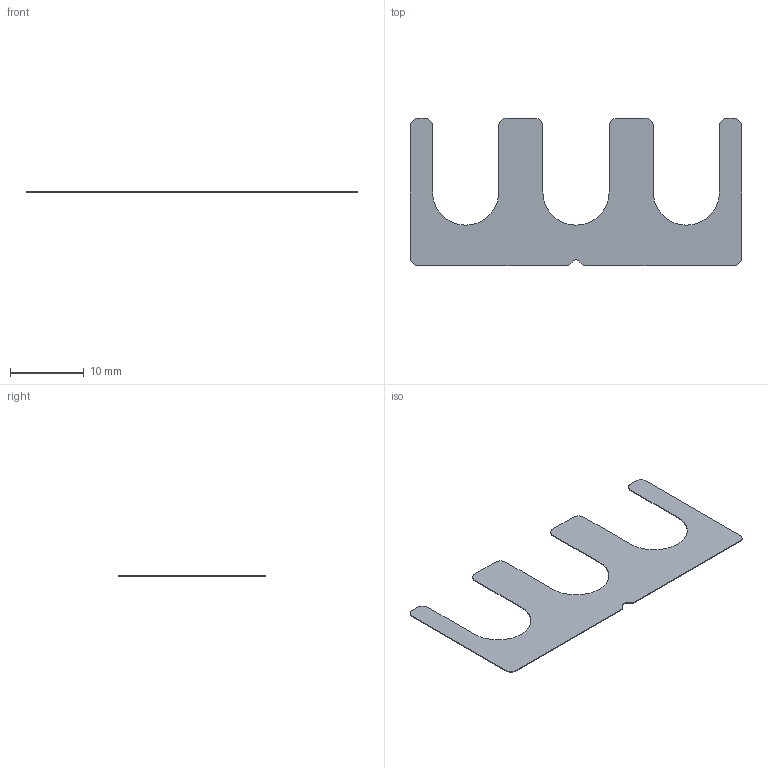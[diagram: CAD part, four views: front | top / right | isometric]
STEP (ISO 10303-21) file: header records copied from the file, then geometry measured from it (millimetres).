
FILE_DESCRIPTION (( 'STEP AP214' ), '1' );
FILE_NAME ('S-45x20-08-03-01-VA-00-00__Notum.STEP', '2018-03-29T11:20:41', ( '' ), ( '' ), 'SwSTEP 2.0', 'SolidWorks 2015', '' );
FILE_SCHEMA (( 'AUTOMOTIVE_DESIGN' ));
Length unit declared in the file: millimetre
Products named in the file (1): S-45x20-08-03-01-VA-00-00__Notum
Bounding box: 45 x 20 x 0.1 mm (x, y, z)
Volume: 53.1 mm3; surface area: 1083.1 mm2
Topology: 1 solids, 1 shells, 34 faces, 96 edges, 64 vertices
Faces by surface type: plane 18, cylinder 16
Entity records: 1146 total; most frequent: DIRECTION 198, CARTESIAN_POINT 195, ORIENTED_EDGE 192, EDGE_CURVE 96, AXIS2_PLACEMENT_3D 67, VECTOR 64, VERTEX_POINT 64, LINE 64
